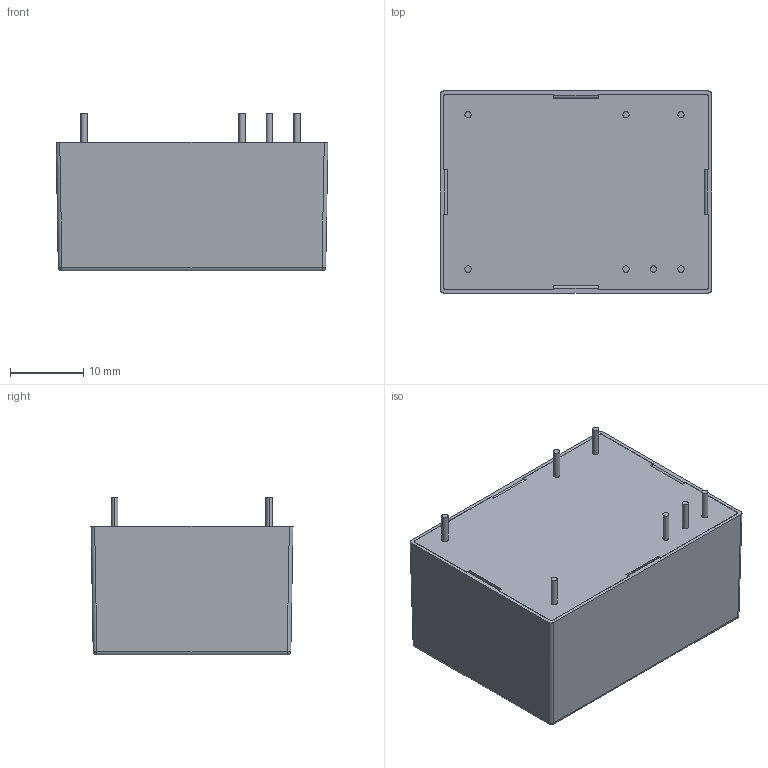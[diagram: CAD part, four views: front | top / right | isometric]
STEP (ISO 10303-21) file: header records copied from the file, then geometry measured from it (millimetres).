
FILE_DESCRIPTION (( 'STEP AP214' ), '1' );
FILE_NAME ('TMLM04双组.STEP', '2012-06-28T01:12:50', ( '微软用户' ), ( '微软中国' ), 'SwSTEP 2.0', 'SolidWorks 2010', '' );
FILE_SCHEMA (( 'AUTOMOTIVE_DESIGN' ));
Length unit declared in the file: millimetre
Products named in the file (4): TMLM04B; TMLM04_dual; TMLM04T
Assembly tree (3 placements, depth 2):
  TMLM04_dual
    TMLM04T
    TMLM04B
    TMLM04_dual
Bounding box: 37 x 27.5 x 21.5 mm (x, y, z)
Volume: 4290.6 mm3; surface area: 10084.7 mm2
Topology: 3 solids, 3 shells, 1561 faces, 4126 edges, 2742 vertices
Faces by surface type: plane 979, bspline 482, cylinder 82, cone 14, sphere 4
Entity records: 106919 total; most frequent: CARTESIAN_POINT 55673, ORIENTED_EDGE 8252, DIRECTION 5502, EDGE_CURVE 4126, LINE 2984, VECTOR 2984, VERTEX_POINT 2742, EDGE_LOOP 1746
